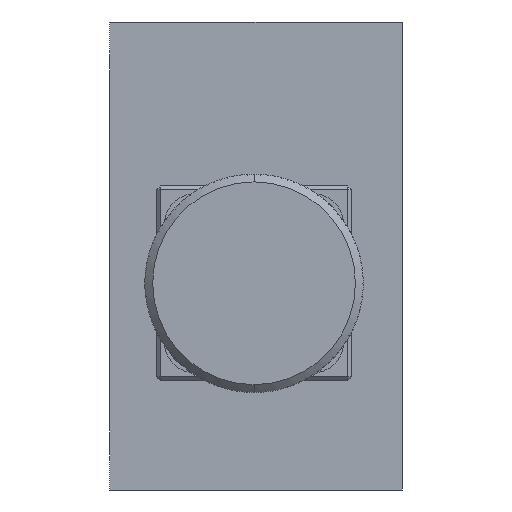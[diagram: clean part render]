
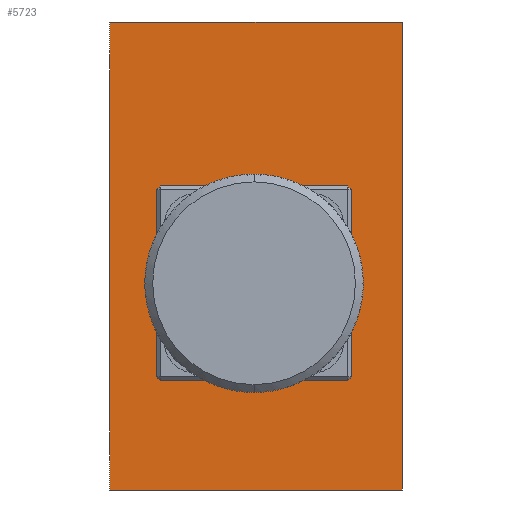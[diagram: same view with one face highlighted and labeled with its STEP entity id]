
A CAD part, left-side view. The second image highlights one B-rep face of the part: STEP entity #5723.
In plain terms, the highlighted planar face has unit normal (-1, 0, 0).
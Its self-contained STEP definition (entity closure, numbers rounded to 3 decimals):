
#60 = EDGE_LOOP ( 'NONE', ( #6681, #3277 ) ) ;
#96 = AXIS2_PLACEMENT_3D ( 'NONE', #8639, #25629, #11071 ) ;
#259 = EDGE_CURVE ( 'NONE', #2704, #2285, #11638, .T. ) ;
#526 = AXIS2_PLACEMENT_3D ( 'NONE', #9785, #26795, #12207 ) ;
#540 = AXIS2_PLACEMENT_3D ( 'NONE', #10948, #27967, #13403 ) ;
#975 = ORIENTED_EDGE ( 'NONE', *, *, #29426, .F. ) ;
#1811 = DIRECTION ( 'NONE',  ( -1., 0., 0. ) ) ;
#2285 = VERTEX_POINT ( 'NONE', #10193 ) ;
#2402 = EDGE_LOOP ( 'NONE', ( #23361, #13506, #10083, #23734 ) ) ;
#2673 = CARTESIAN_POINT ( 'NONE',  ( 0., -18.75, -30. ) ) ;
#2704 = VERTEX_POINT ( 'NONE', #5645 ) ;
#2716 = LINE ( 'NONE', #10101, #15584 ) ;
#2734 = VERTEX_POINT ( 'NONE', #27490 ) ;
#2881 = ORIENTED_EDGE ( 'NONE', *, *, #4973, .F. ) ;
#3159 = EDGE_CURVE ( 'NONE', #2285, #4058, #27985, .T. ) ;
#3274 = CIRCLE ( 'NONE', #526, 4.25 ) ;
#3277 = ORIENTED_EDGE ( 'NONE', *, *, #22619, .F. ) ;
#3949 = CARTESIAN_POINT ( 'NONE',  ( 0., 7.75, -13. ) ) ;
#4058 = VERTEX_POINT ( 'NONE', #8183 ) ;
#4973 = EDGE_CURVE ( 'NONE', #27756, #28899, #27191, .T. ) ;
#5645 = CARTESIAN_POINT ( 'NONE',  ( 0., 18.75, 30. ) ) ;
#5723 = ADVANCED_FACE ( 'NONE', ( #25232, #12308, #6661, #25998 ), #8897, .T. ) ;
#5727 = AXIS2_PLACEMENT_3D ( 'NONE', #27092, #12527, #29549 ) ;
#6003 = EDGE_CURVE ( 'NONE', #4058, #2734, #10762, .T. ) ;
#6661 = FACE_OUTER_BOUND ( 'NONE', #2402, .T. ) ;
#6681 = ORIENTED_EDGE ( 'NONE', *, *, #26378, .F. ) ;
#7672 = CARTESIAN_POINT ( 'NONE',  ( 0., -18.75, 30. ) ) ;
#8145 = CARTESIAN_POINT ( 'NONE',  ( 0., 0.25, -7.75 ) ) ;
#8183 = CARTESIAN_POINT ( 'NONE',  ( 0., -18.75, -30. ) ) ;
#8639 = CARTESIAN_POINT ( 'NONE',  ( 0., 0.25, -3.5 ) ) ;
#8897 = PLANE ( 'NONE',  #11600 ) ;
#9785 = CARTESIAN_POINT ( 'NONE',  ( 0., 0.25, -3.5 ) ) ;
#10005 = VECTOR ( 'NONE', #19626, 1000. ) ;
#10083 = ORIENTED_EDGE ( 'NONE', *, *, #259, .F. ) ;
#10101 = CARTESIAN_POINT ( 'NONE',  ( 0., 18.75, 30. ) ) ;
#10193 = CARTESIAN_POINT ( 'NONE',  ( 0., -18.75, 30. ) ) ;
#10653 = DIRECTION ( 'NONE',  ( -1., 0., 0. ) ) ;
#10762 = LINE ( 'NONE', #2673, #10005 ) ;
#10948 = CARTESIAN_POINT ( 'NONE',  ( 0., 7.75, -11. ) ) ;
#11071 = DIRECTION ( 'NONE',  ( 0., 0., 1. ) ) ;
#11600 = AXIS2_PLACEMENT_3D ( 'NONE', #16362, #1811, #18794 ) ;
#11638 = LINE ( 'NONE', #7672, #18130 ) ;
#12207 = DIRECTION ( 'NONE',  ( 0., 0., 1. ) ) ;
#12236 = EDGE_CURVE ( 'NONE', #28899, #27756, #16655, .T. ) ;
#12308 = FACE_BOUND ( 'NONE', #60, .T. ) ;
#12527 = DIRECTION ( 'NONE',  ( -1., 0., 0. ) ) ;
#13215 = DIRECTION ( 'NONE',  ( -1., 0., 0. ) ) ;
#13403 = DIRECTION ( 'NONE',  ( 0., 0., 1. ) ) ;
#13506 = ORIENTED_EDGE ( 'NONE', *, *, #3159, .F. ) ;
#13531 = CIRCLE ( 'NONE', #96, 4.25 ) ;
#14659 = AXIS2_PLACEMENT_3D ( 'NONE', #27770, #13215, #30223 ) ;
#15160 = VERTEX_POINT ( 'NONE', #31390 ) ;
#15584 = VECTOR ( 'NONE', #27004, 1000. ) ;
#15991 = VERTEX_POINT ( 'NONE', #3949 ) ;
#16196 = ORIENTED_EDGE ( 'NONE', *, *, #29668, .F. ) ;
#16362 = CARTESIAN_POINT ( 'NONE',  ( 0., 18.75, -30. ) ) ;
#16655 = CIRCLE ( 'NONE', #21227, 2. ) ;
#16713 = CARTESIAN_POINT ( 'NONE',  ( 0., -9.003, 4.964 ) ) ;
#16948 = VERTEX_POINT ( 'NONE', #31355 ) ;
#18130 = VECTOR ( 'NONE', #22224, 1000. ) ;
#18581 = CIRCLE ( 'NONE', #540, 2. ) ;
#18763 = VERTEX_POINT ( 'NONE', #8145 ) ;
#18794 = DIRECTION ( 'NONE',  ( 0., 0., 1. ) ) ;
#19040 = CARTESIAN_POINT ( 'NONE',  ( 0., -5.497, 3.036 ) ) ;
#19626 = DIRECTION ( 'NONE',  ( 0., 1., 0. ) ) ;
#20568 = CIRCLE ( 'NONE', #5727, 2. ) ;
#20697 = ORIENTED_EDGE ( 'NONE', *, *, #12236, .F. ) ;
#21227 = AXIS2_PLACEMENT_3D ( 'NONE', #25199, #10653, #27671 ) ;
#21504 = VECTOR ( 'NONE', #29123, 1000. ) ;
#21966 = EDGE_LOOP ( 'NONE', ( #975, #16196 ) ) ;
#22224 = DIRECTION ( 'NONE',  ( 0., -1., 0. ) ) ;
#22619 = EDGE_CURVE ( 'NONE', #15991, #16948, #18581, .T. ) ;
#23361 = ORIENTED_EDGE ( 'NONE', *, *, #6003, .F. ) ;
#23734 = ORIENTED_EDGE ( 'NONE', *, *, #29025, .F. ) ;
#25199 = CARTESIAN_POINT ( 'NONE',  ( 0., -7.25, 4. ) ) ;
#25232 = FACE_BOUND ( 'NONE', #29831, .T. ) ;
#25629 = DIRECTION ( 'NONE',  ( -1., 0., 0. ) ) ;
#25998 = FACE_BOUND ( 'NONE', #21966, .T. ) ;
#26378 = EDGE_CURVE ( 'NONE', #16948, #15991, #20568, .T. ) ;
#26795 = DIRECTION ( 'NONE',  ( -1., 0., 0. ) ) ;
#27004 = DIRECTION ( 'NONE',  ( 0., 0., 1. ) ) ;
#27092 = CARTESIAN_POINT ( 'NONE',  ( 0., 7.75, -11. ) ) ;
#27191 = CIRCLE ( 'NONE', #14659, 2. ) ;
#27490 = CARTESIAN_POINT ( 'NONE',  ( 0., 18.75, -30. ) ) ;
#27671 = DIRECTION ( 'NONE',  ( 0., 0., 1. ) ) ;
#27756 = VERTEX_POINT ( 'NONE', #19040 ) ;
#27770 = CARTESIAN_POINT ( 'NONE',  ( 0., -7.25, 4. ) ) ;
#27967 = DIRECTION ( 'NONE',  ( -1., 0., 0. ) ) ;
#27985 = LINE ( 'NONE', #29216, #21504 ) ;
#28899 = VERTEX_POINT ( 'NONE', #16713 ) ;
#29025 = EDGE_CURVE ( 'NONE', #2734, #2704, #2716, .T. ) ;
#29123 = DIRECTION ( 'NONE',  ( 0., 0., -1. ) ) ;
#29216 = CARTESIAN_POINT ( 'NONE',  ( 0., -18.75, 30. ) ) ;
#29426 = EDGE_CURVE ( 'NONE', #15160, #18763, #13531, .T. ) ;
#29549 = DIRECTION ( 'NONE',  ( 0., 0., 1. ) ) ;
#29668 = EDGE_CURVE ( 'NONE', #18763, #15160, #3274, .T. ) ;
#29831 = EDGE_LOOP ( 'NONE', ( #20697, #2881 ) ) ;
#30223 = DIRECTION ( 'NONE',  ( 0., 0., 1. ) ) ;
#31355 = CARTESIAN_POINT ( 'NONE',  ( 0., 7.75, -9. ) ) ;
#31390 = CARTESIAN_POINT ( 'NONE',  ( 0., 0.25, 0.75 ) ) ;
